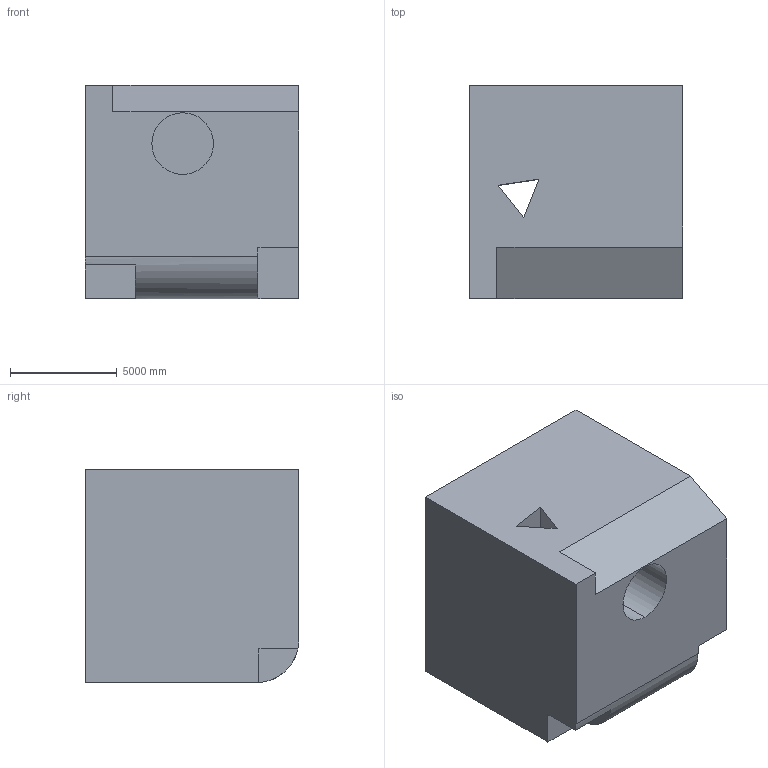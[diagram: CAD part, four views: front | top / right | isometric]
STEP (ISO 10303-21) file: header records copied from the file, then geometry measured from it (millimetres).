
FILE_DESCRIPTION (( 'STEP AP203' ), '1' );
FILE_NAME ('1662.STEP', '2022-08-19T11:28:51', ( 'user' ), ( '' ), 'SwSTEP 2.0', 'SolidWorks 2021', '' );
FILE_SCHEMA (( 'CONFIG_CONTROL_DESIGN' ));
Length unit declared in the file: centimetre
Products named in the file (1): 1662
Bounding box: 10000 x 10000 x 10000 mm (x, y, z)
Volume: 917977840697.2 mm3; surface area: 668195589.4 mm2
Topology: 1 solids, 1 shells, 25 faces, 66 edges, 44 vertices
Faces by surface type: plane 20, cylinder 5
Entity records: 853 total; most frequent: CARTESIAN_POINT 136, ORIENTED_EDGE 132, DIRECTION 130, EDGE_CURVE 66, VECTOR 54, LINE 54, VERTEX_POINT 44, AXIS2_PLACEMENT_3D 38
